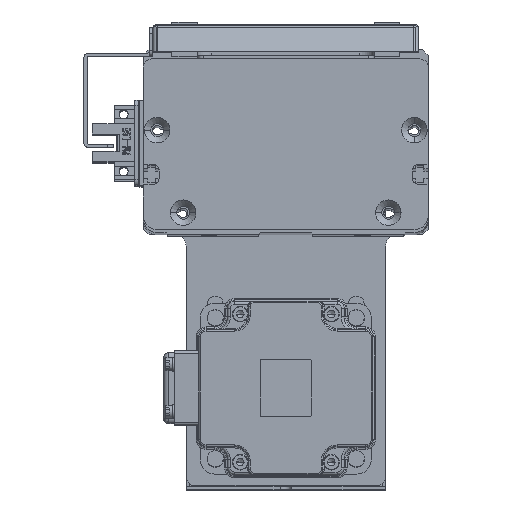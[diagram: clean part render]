
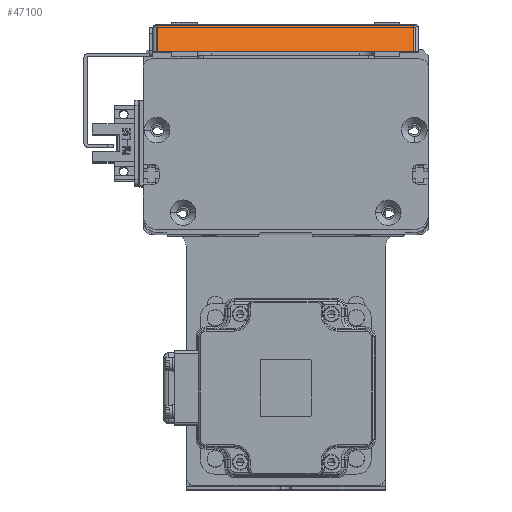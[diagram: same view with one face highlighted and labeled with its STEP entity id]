
A CAD part, top view. The second image highlights one B-rep face of the part: STEP entity #47100.
In plain terms, the highlighted planar face has unit normal (0, 0.707, 0.707) as drawn and (-0.707, 0, -0.707) by its records, which use the part's own axes.
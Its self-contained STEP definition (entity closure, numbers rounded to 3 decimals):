
#1211 = LINE ( 'NONE', #47298, #26165 ) ;
#3552 = FACE_OUTER_BOUND ( 'NONE', #67200, .T. ) ;
#4271 = EDGE_CURVE ( 'NONE', #46142, #42307, #59404, .T. ) ;
#7424 = AXIS2_PLACEMENT_3D ( 'NONE', #39924, #45248, #20160 ) ;
#13938 = PLANE ( 'NONE',  #7424 ) ;
#16192 = CARTESIAN_POINT ( 'NONE',  ( -66.5, 91.7, 4.1 ) ) ;
#16766 = CARTESIAN_POINT ( 'NONE',  ( -66.5, 93.4, 4.1 ) ) ;
#17620 = EDGE_CURVE ( 'NONE', #50448, #46142, #28686, .T. ) ;
#18229 = EDGE_CURVE ( 'NONE', #48687, #50448, #64302, .T. ) ;
#19469 = CARTESIAN_POINT ( 'NONE',  ( -57.298, 91.7, -5.102 ) ) ;
#20160 = DIRECTION ( 'NONE',  ( -0.707, 0., 0.707 ) ) ;
#22049 = VECTOR ( 'NONE', #25278, 1000. ) ;
#24816 = CARTESIAN_POINT ( 'NONE',  ( -68., 1.7, 5.6 ) ) ;
#25278 = DIRECTION ( 'NONE',  ( -0.707, 0., 0.707 ) ) ;
#25750 = DIRECTION ( 'NONE',  ( 0.707, 0., -0.707 ) ) ;
#26165 = VECTOR ( 'NONE', #25750, 1000. ) ;
#26343 = EDGE_CURVE ( 'NONE', #42307, #48687, #1211, .T. ) ;
#28686 = LINE ( 'NONE', #24816, #22049 ) ;
#30442 = CARTESIAN_POINT ( 'NONE',  ( -57.298, 1.7, -5.102 ) ) ;
#30775 = ORIENTED_EDGE ( 'NONE', *, *, #4271, .T. ) ;
#34554 = VECTOR ( 'NONE', #38102, 1000. ) ;
#38102 = DIRECTION ( 'NONE',  ( 0., 1., 0. ) ) ;
#38850 = ORIENTED_EDGE ( 'NONE', *, *, #26343, .T. ) ;
#39924 = CARTESIAN_POINT ( 'NONE',  ( -68., 93.4, 5.6 ) ) ;
#42307 = VERTEX_POINT ( 'NONE', #16192 ) ;
#45248 = DIRECTION ( 'NONE',  ( -0.707, 0., -0.707 ) ) ;
#46142 = VERTEX_POINT ( 'NONE', #62774 ) ;
#47100 = ADVANCED_FACE ( 'NONE', ( #3552 ), #13938, .T. ) ;
#47298 = CARTESIAN_POINT ( 'NONE',  ( -68., 91.7, 5.6 ) ) ;
#48523 = VECTOR ( 'NONE', #50133, 1000. ) ;
#48687 = VERTEX_POINT ( 'NONE', #19469 ) ;
#50133 = DIRECTION ( 'NONE',  ( 0., -1., 0. ) ) ;
#50448 = VERTEX_POINT ( 'NONE', #30442 ) ;
#54741 = CARTESIAN_POINT ( 'NONE',  ( -57.298, 93.4, -5.102 ) ) ;
#56797 = ORIENTED_EDGE ( 'NONE', *, *, #17620, .T. ) ;
#59404 = LINE ( 'NONE', #16766, #34554 ) ;
#62774 = CARTESIAN_POINT ( 'NONE',  ( -66.5, 1.7, 4.1 ) ) ;
#64302 = LINE ( 'NONE', #54741, #48523 ) ;
#67200 = EDGE_LOOP ( 'NONE', ( #56797, #30775, #38850, #67366 ) ) ;
#67366 = ORIENTED_EDGE ( 'NONE', *, *, #18229, .T. ) ;
